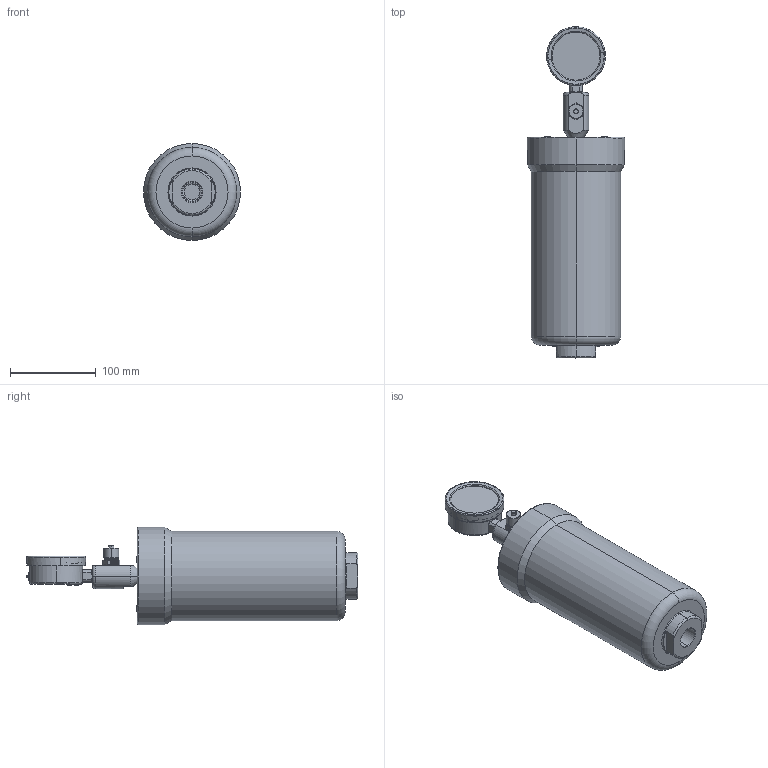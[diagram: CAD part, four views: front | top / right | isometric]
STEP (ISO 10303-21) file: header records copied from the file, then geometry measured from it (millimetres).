
FILE_DESCRIPTION (( 'STEP AP214' ), '1' );
FILE_NAME ('U015GX04X1-AI (DGA).STEP', '2025-05-14T14:53:51', ( '' ), ( '' ), 'SwSTEP 2.0', 'SolidWorks 2024', '' );
FILE_SCHEMA (( 'AUTOMOTIVE_DESIGN' ));
Length unit declared in the file: millimetre
Products named in the file (1): U015GX04X1-AI (DGA)
Bounding box: 113 x 386.45 x 113 mm (x, y, z)
Surface area: 149846.4 mm2 (no closed solid volume)
Topology: 0 solids, 16 shells, 430 faces, 1085 edges, 671 vertices
Faces by surface type: plane 123, cylinder 122, cone 75, torus 61, bspline 36, sphere 13
Entity records: 18322 total; most frequent: CARTESIAN_POINT 3286, DIRECTION 2243, ORIENTED_EDGE 1999, EDGE_CURVE 1074, AXIS2_PLACEMENT_3D 922, VERTEX_POINT 671, CIRCLE 527, EDGE_LOOP 486
